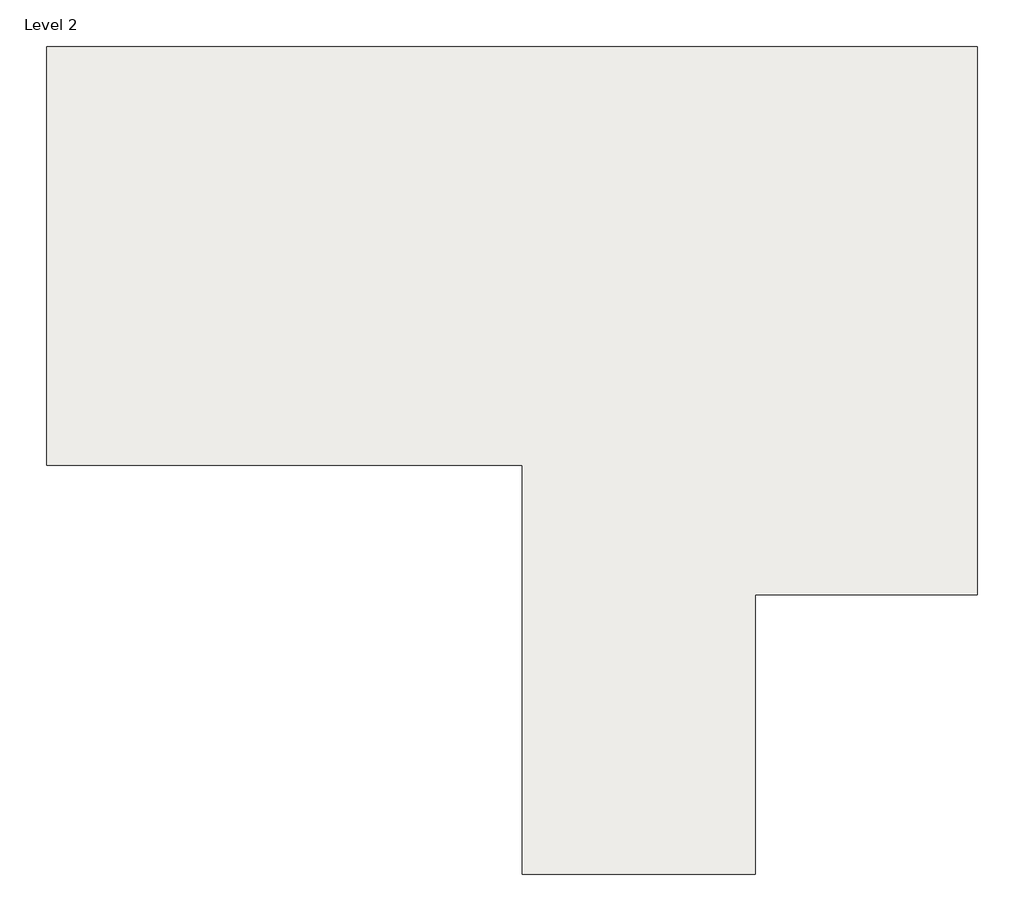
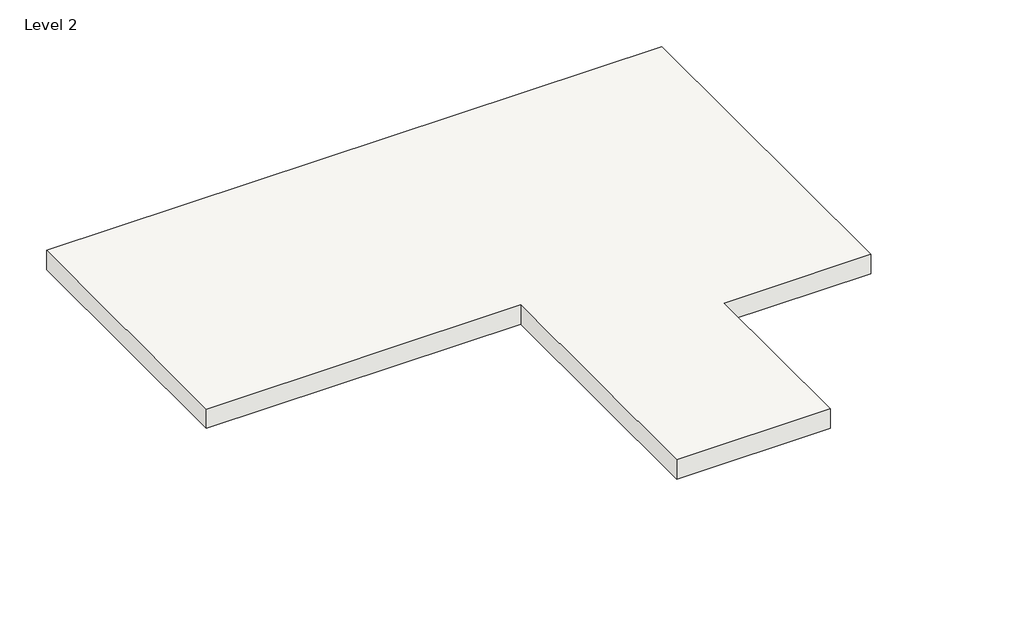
# One storey: 1 slab.
"""IFC4 building model written with IfcOpenShell, lengths in millimetres."""

from ifc_helpers import new_model, si_unit, frame, origin, place, context, project, spatial, polyline, outline, extrude, element, save

model = new_model("IFC4")

# Units and contexts
model_context = context("Model", 3, world=origin())
ifc_project = project(units=[si_unit("LENGTHUNIT", "METRE", prefix="MILLI")], contexts=[model_context])

# Site, building, storey
site = spatial("IfcSite", under=ifc_project)
building = spatial("IfcBuilding", under=site)
storey = spatial("IfcBuildingStorey", under=building, Name="Level 2", Elevation=3200.0)

# Slab
placement = place(None, origin())
element("IfcSlab", 1, ObjectType="کف طبقات", at=placement, inside=storey, context=model_context, shape_type="SweptSolid", body=[
    extrude(outline(polyline([(2146.6989013, 1047.8312347), (2146.6989013, -4252.1687653), (-3.3010987, -4252.1687653), (-3.3010987, -6952.1687653), (-2253.3010987, -6952.1687653), (-2253.3010987, -3002.1687653), (-6853.3010987, -3002.1687653), (-6853.3010987, 1047.8312347), (2146.6989013, 1047.8312347)])), frame((0.0, 0.0, 2900.0), z_axis=(0.0, 0.0, 1.0), x_axis=(1.0, 0.0, 0.0)), (0.0, 0.0, 1.0), 300.0),
])

save(model, "model.ifc")
